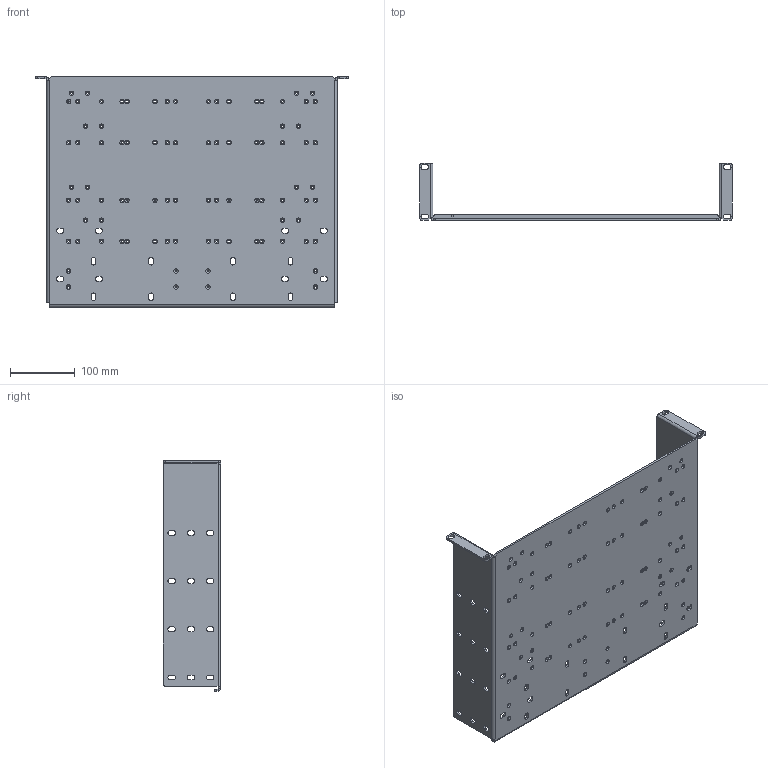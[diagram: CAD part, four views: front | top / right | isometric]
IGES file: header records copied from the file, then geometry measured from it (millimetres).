
Start section: SolidWorks IGES file using analytic representation for surfaces
Global section: file name: C:\Dropbox\Mechanical Engr\Development Projects (P)\Accessories\Customer Model Development\1402B-RM.IGS; native system: SolidWorks 2014; preprocessor: SolidWorks 2014; author: mhanson; date: 150811.143128; units: inch
Bounding box: 482.6 x 88.14 x 355.6 mm (x, y, z)
Volume: 692607.5 mm3; surface area: 451069.7 mm2
Topology: 2 solids, 2 shells, 660 faces, 1754 edges, 1098 vertices
Faces by surface type: revolution 507, plane 153
